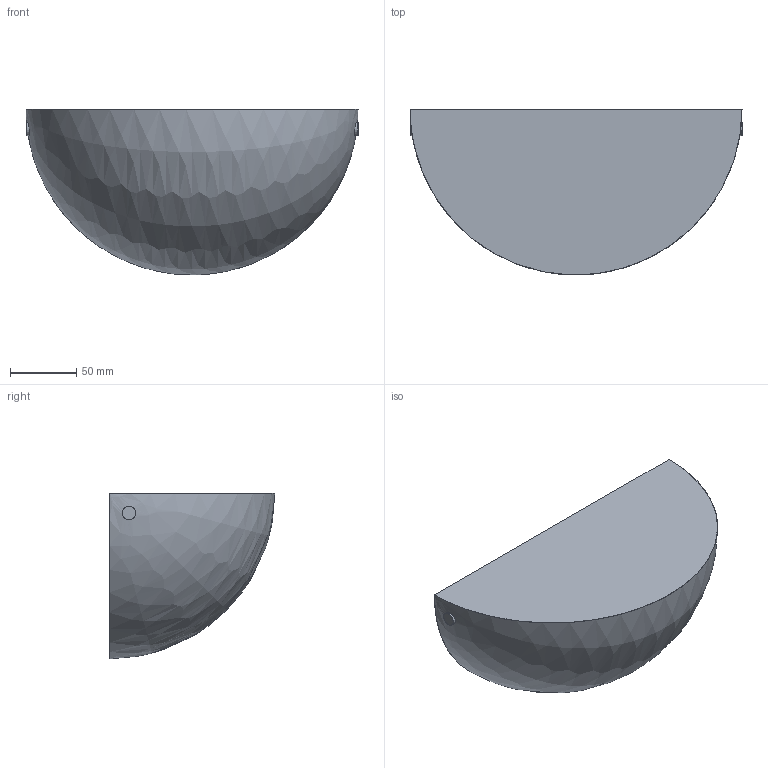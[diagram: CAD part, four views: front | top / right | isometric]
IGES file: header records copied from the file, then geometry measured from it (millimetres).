
Start section: SolidWorks IGES file using analytic representation for surfaces
Global section: file name: C:\Users\danielet\Desktop\3D CARLOS\DINA-A3071-3D\DINA-A3071-3D.IGS; native system: SolidWorks 2018; preprocessor: SolidWorks 2018; author: danielet; date: 211124.072915; units: millimetre
Bounding box: 250 x 125 x 125 mm (x, y, z)
Surface area: 134237.8 mm2 (no closed solid volume)
Topology: 0 solids, 0 shells, 11 faces, 320 edges, 317 vertices
Faces by surface type: bspline 6, revolution 5
